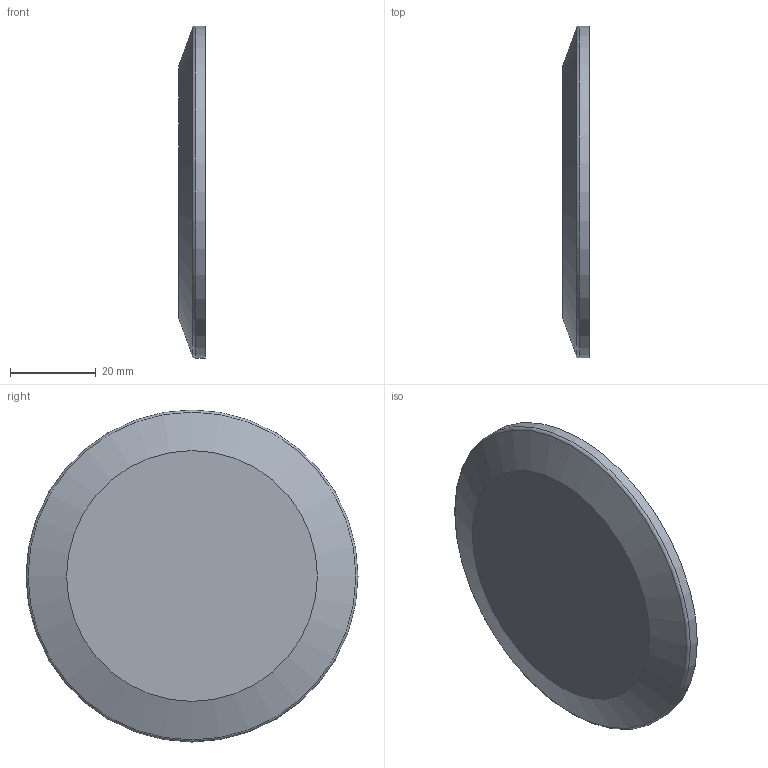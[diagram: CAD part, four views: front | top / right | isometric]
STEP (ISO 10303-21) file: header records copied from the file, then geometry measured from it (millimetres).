
FILE_DESCRIPTION(/* description */ (''),/* implementation_level */ '2;1');
FILE_NAME(/* name */ '12766-Ferrule size-77.stp',/* time_stamp */ '2024-12-16T08:08:30+01:00',/* author */ ('roger.thijssen'),/* organization */ (''),/* preprocessor_version */ 'ST-DEVELOPER v20',/* originating_system */ 'Autodesk Inventor 2025',/* authorisation */ '');
FILE_SCHEMA (('AUTOMOTIVE_DESIGN { 1 0 10303 214 3 1 1 }'));
Length unit declared in the file: millimetre
Products named in the file (1): 12766-Ferrule size-77
Bounding box: 6.3 x 77.5 x 77.5 mm (x, y, z)
Volume: 25272.4 mm3; surface area: 10555.8 mm2
Topology: 1 solids, 1 shells, 11 faces, 21 edges, 13 vertices
Faces by surface type: torus 4, cone 3, plane 3, cylinder 1
Full cylindrical faces by diameter (mm): 77.5 x1
Entity records: 351 total; most frequent: DIRECTION 62, CARTESIAN_POINT 46, ORIENTED_EDGE 42, AXIS2_PLACEMENT_3D 29, EDGE_CURVE 21, CIRCLE 17, VERTEX_POINT 13, EDGE_LOOP 12
